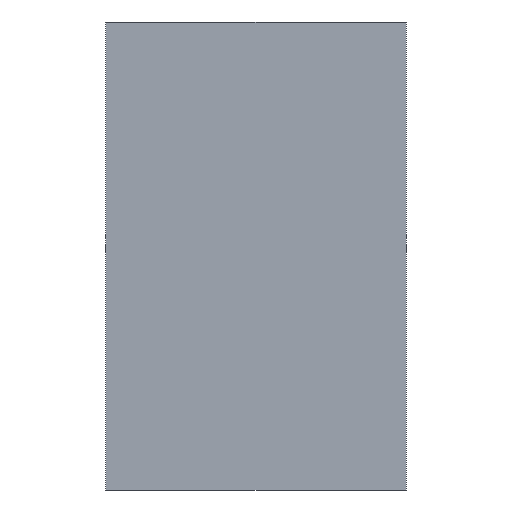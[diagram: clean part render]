
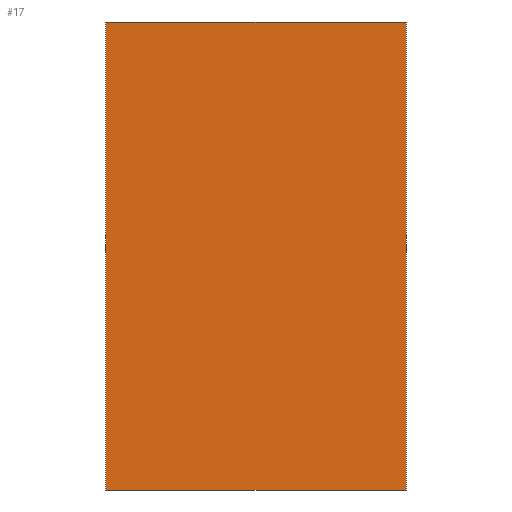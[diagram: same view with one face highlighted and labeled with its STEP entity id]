
A CAD part, front view. The second image highlights one B-rep face of the part: STEP entity #17.
In plain terms, the highlighted planar face has unit normal (0, -1, 0).
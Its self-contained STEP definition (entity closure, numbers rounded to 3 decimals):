
#17 = ADVANCED_FACE('',(#18),#32,.F.);
#18 = FACE_BOUND('',#19,.F.);
#19 = EDGE_LOOP('',(#20,#55,#83,#111));
#20 = ORIENTED_EDGE('',*,*,#21,.T.);
#21 = EDGE_CURVE('',#22,#24,#26,.T.);
#22 = VERTEX_POINT('',#23);
#23 = CARTESIAN_POINT('',(0.,0.,0.));
#24 = VERTEX_POINT('',#25);
#25 = CARTESIAN_POINT('',(0.,0.,7.));
#26 = SURFACE_CURVE('',#27,(#31,#43),.PCURVE_S1.);
#27 = LINE('',#28,#29);
#28 = CARTESIAN_POINT('',(0.,0.,0.));
#29 = VECTOR('',#30,1.);
#30 = DIRECTION('',(0.,0.,1.));
#31 = PCURVE('',#32,#37);
#32 = PLANE('',#33);
#33 = AXIS2_PLACEMENT_3D('',#34,#35,#36);
#34 = CARTESIAN_POINT('',(0.,0.,0.));
#35 = DIRECTION('',(0.,1.,0.));
#36 = DIRECTION('',(1.,0.,0.));
#37 = DEFINITIONAL_REPRESENTATION('',(#38),#42);
#38 = LINE('',#39,#40);
#39 = CARTESIAN_POINT('',(0.,0.));
#40 = VECTOR('',#41,1.);
#41 = DIRECTION('',(0.,-1.));
#42 = ( GEOMETRIC_REPRESENTATION_CONTEXT(2) 
PARAMETRIC_REPRESENTATION_CONTEXT() REPRESENTATION_CONTEXT('2D SPACE',''
  ) );
#43 = PCURVE('',#44,#49);
#44 = PLANE('',#45);
#45 = AXIS2_PLACEMENT_3D('',#46,#47,#48);
#46 = CARTESIAN_POINT('',(0.,45.,0.));
#47 = DIRECTION('',(1.,0.,0.));
#48 = DIRECTION('',(0.,-1.,0.));
#49 = DEFINITIONAL_REPRESENTATION('',(#50),#54);
#50 = LINE('',#51,#52);
#51 = CARTESIAN_POINT('',(45.,0.));
#52 = VECTOR('',#53,1.);
#53 = DIRECTION('',(0.,-1.));
#54 = ( GEOMETRIC_REPRESENTATION_CONTEXT(2) 
PARAMETRIC_REPRESENTATION_CONTEXT() REPRESENTATION_CONTEXT('2D SPACE',''
  ) );
#55 = ORIENTED_EDGE('',*,*,#56,.T.);
#56 = EDGE_CURVE('',#24,#57,#59,.T.);
#57 = VERTEX_POINT('',#58);
#58 = CARTESIAN_POINT('',(4.5,0.,7.));
#59 = SURFACE_CURVE('',#60,(#64,#71),.PCURVE_S1.);
#60 = LINE('',#61,#62);
#61 = CARTESIAN_POINT('',(0.,0.,7.));
#62 = VECTOR('',#63,1.);
#63 = DIRECTION('',(1.,0.,0.));
#64 = PCURVE('',#32,#65);
#65 = DEFINITIONAL_REPRESENTATION('',(#66),#70);
#66 = LINE('',#67,#68);
#67 = CARTESIAN_POINT('',(0.,-7.));
#68 = VECTOR('',#69,1.);
#69 = DIRECTION('',(1.,0.));
#70 = ( GEOMETRIC_REPRESENTATION_CONTEXT(2) 
PARAMETRIC_REPRESENTATION_CONTEXT() REPRESENTATION_CONTEXT('2D SPACE',''
  ) );
#71 = PCURVE('',#72,#77);
#72 = PLANE('',#73);
#73 = AXIS2_PLACEMENT_3D('',#74,#75,#76);
#74 = CARTESIAN_POINT('',(2.25,22.5,7.));
#75 = DIRECTION('',(0.,0.,1.));
#76 = DIRECTION('',(1.,0.,0.));
#77 = DEFINITIONAL_REPRESENTATION('',(#78),#82);
#78 = LINE('',#79,#80);
#79 = CARTESIAN_POINT('',(-2.25,-22.5));
#80 = VECTOR('',#81,1.);
#81 = DIRECTION('',(1.,0.));
#82 = ( GEOMETRIC_REPRESENTATION_CONTEXT(2) 
PARAMETRIC_REPRESENTATION_CONTEXT() REPRESENTATION_CONTEXT('2D SPACE',''
  ) );
#83 = ORIENTED_EDGE('',*,*,#84,.F.);
#84 = EDGE_CURVE('',#85,#57,#87,.T.);
#85 = VERTEX_POINT('',#86);
#86 = CARTESIAN_POINT('',(4.5,0.,0.));
#87 = SURFACE_CURVE('',#88,(#92,#99),.PCURVE_S1.);
#88 = LINE('',#89,#90);
#89 = CARTESIAN_POINT('',(4.5,0.,0.));
#90 = VECTOR('',#91,1.);
#91 = DIRECTION('',(0.,0.,1.));
#92 = PCURVE('',#32,#93);
#93 = DEFINITIONAL_REPRESENTATION('',(#94),#98);
#94 = LINE('',#95,#96);
#95 = CARTESIAN_POINT('',(4.5,0.));
#96 = VECTOR('',#97,1.);
#97 = DIRECTION('',(0.,-1.));
#98 = ( GEOMETRIC_REPRESENTATION_CONTEXT(2) 
PARAMETRIC_REPRESENTATION_CONTEXT() REPRESENTATION_CONTEXT('2D SPACE',''
  ) );
#99 = PCURVE('',#100,#105);
#100 = PLANE('',#101);
#101 = AXIS2_PLACEMENT_3D('',#102,#103,#104);
#102 = CARTESIAN_POINT('',(4.5,0.,0.));
#103 = DIRECTION('',(-1.,0.,0.));
#104 = DIRECTION('',(0.,1.,0.));
#105 = DEFINITIONAL_REPRESENTATION('',(#106),#110);
#106 = LINE('',#107,#108);
#107 = CARTESIAN_POINT('',(0.,0.));
#108 = VECTOR('',#109,1.);
#109 = DIRECTION('',(0.,-1.));
#110 = ( GEOMETRIC_REPRESENTATION_CONTEXT(2) 
PARAMETRIC_REPRESENTATION_CONTEXT() REPRESENTATION_CONTEXT('2D SPACE',''
  ) );
#111 = ORIENTED_EDGE('',*,*,#112,.F.);
#112 = EDGE_CURVE('',#22,#85,#113,.T.);
#113 = SURFACE_CURVE('',#114,(#118,#125),.PCURVE_S1.);
#114 = LINE('',#115,#116);
#115 = CARTESIAN_POINT('',(0.,0.,0.));
#116 = VECTOR('',#117,1.);
#117 = DIRECTION('',(1.,0.,0.));
#118 = PCURVE('',#32,#119);
#119 = DEFINITIONAL_REPRESENTATION('',(#120),#124);
#120 = LINE('',#121,#122);
#121 = CARTESIAN_POINT('',(0.,0.));
#122 = VECTOR('',#123,1.);
#123 = DIRECTION('',(1.,0.));
#124 = ( GEOMETRIC_REPRESENTATION_CONTEXT(2) 
PARAMETRIC_REPRESENTATION_CONTEXT() REPRESENTATION_CONTEXT('2D SPACE',''
  ) );
#125 = PCURVE('',#126,#131);
#126 = PLANE('',#127);
#127 = AXIS2_PLACEMENT_3D('',#128,#129,#130);
#128 = CARTESIAN_POINT('',(2.25,22.5,0.));
#129 = DIRECTION('',(0.,0.,1.));
#130 = DIRECTION('',(1.,0.,0.));
#131 = DEFINITIONAL_REPRESENTATION('',(#132),#136);
#132 = LINE('',#133,#134);
#133 = CARTESIAN_POINT('',(-2.25,-22.5));
#134 = VECTOR('',#135,1.);
#135 = DIRECTION('',(1.,0.));
#136 = ( GEOMETRIC_REPRESENTATION_CONTEXT(2) 
PARAMETRIC_REPRESENTATION_CONTEXT() REPRESENTATION_CONTEXT('2D SPACE',''
  ) );
